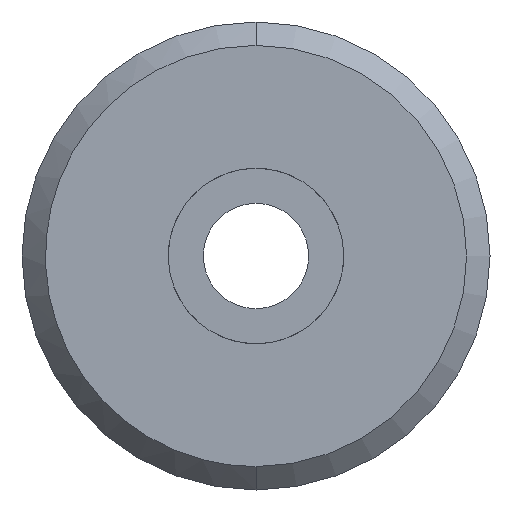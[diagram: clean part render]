
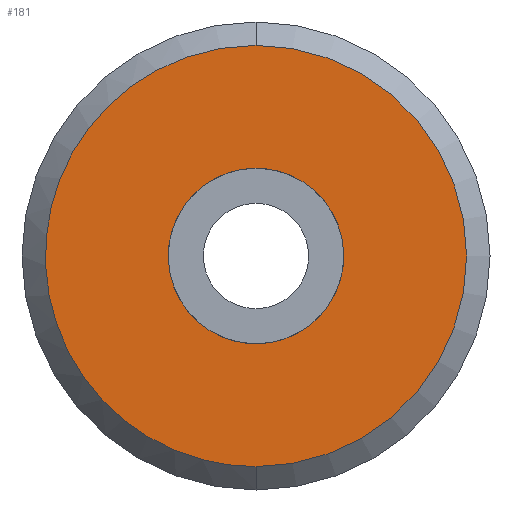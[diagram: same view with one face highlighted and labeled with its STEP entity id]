
A CAD part, front view. The second image highlights one B-rep face of the part: STEP entity #181.
In plain terms, the highlighted planar face has unit normal (0, -1, 0).
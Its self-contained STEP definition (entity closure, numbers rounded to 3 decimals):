
#57=CARTESIAN_POINT('Axis2P3D Location',(0.,0.,0.)) ;
#61=CARTESIAN_POINT('Vertex',(0.,0.,-18.)) ;
#63=CARTESIAN_POINT('Vertex',(0.,0.,18.)) ;
#92=CARTESIAN_POINT('Axis2P3D Location',(0.,0.,0.)) ;
#98=CARTESIAN_POINT('Control Point',(0.,0.,18.)) ;
#99=CARTESIAN_POINT('Control Point',(-1.663,0.,18.)) ;
#100=CARTESIAN_POINT('Control Point',(-3.326,0.,17.808)) ;
#101=CARTESIAN_POINT('Control Point',(-4.959,0.,17.424)) ;
#102=CARTESIAN_POINT('Control Point',(-8.107,0.,16.286)) ;
#103=CARTESIAN_POINT('Control Point',(-10.913,0.,14.46)) ;
#104=CARTESIAN_POINT('Control Point',(-12.204,0.,13.388)) ;
#105=CARTESIAN_POINT('Control Point',(-14.515,0.,10.967)) ;
#106=CARTESIAN_POINT('Control Point',(-16.213,0.,8.082)) ;
#107=CARTESIAN_POINT('Control Point',(-16.891,0.,6.547)) ;
#108=CARTESIAN_POINT('Control Point',(-17.881,0.,3.349)) ;
#109=CARTESIAN_POINT('Control Point',(-18.116,0.,0.01)) ;
#110=CARTESIAN_POINT('Control Point',(-18.039,0.,-1.666)) ;
#111=CARTESIAN_POINT('Control Point',(-17.5,0.,-4.97)) ;
#112=CARTESIAN_POINT('Control Point',(-16.222,0.,-8.064)) ;
#113=CARTESIAN_POINT('Control Point',(-15.406,0.,-9.53)) ;
#114=CARTESIAN_POINT('Control Point',(-13.451,0.,-12.248)) ;
#115=CARTESIAN_POINT('Control Point',(-10.928,0.,-14.448)) ;
#116=CARTESIAN_POINT('Control Point',(-9.545,0.,-15.397)) ;
#117=CARTESIAN_POINT('Control Point',(-6.877,0.,-16.804)) ;
#118=CARTESIAN_POINT('Control Point',(-3.984,0.,-17.63)) ;
#119=CARTESIAN_POINT('Control Point',(-2.666,0.,-17.877)) ;
#120=CARTESIAN_POINT('Control Point',(-1.333,0.,-18.)) ;
#121=CARTESIAN_POINT('Control Point',(0.,0.,-18.)) ;
#128=CARTESIAN_POINT('Control Point',(0.,0.,-7.5)) ;
#129=CARTESIAN_POINT('Control Point',(0.805,0.,-7.5)) ;
#130=CARTESIAN_POINT('Control Point',(1.61,0.,-7.392)) ;
#131=CARTESIAN_POINT('Control Point',(2.396,0.,-7.176)) ;
#132=CARTESIAN_POINT('Control Point',(3.89,0.,-6.538)) ;
#133=CARTESIAN_POINT('Control Point',(5.163,0.,-5.53)) ;
#134=CARTESIAN_POINT('Control Point',(5.728,0.,-4.942)) ;
#135=CARTESIAN_POINT('Control Point',(6.686,0.,-3.631)) ;
#136=CARTESIAN_POINT('Control Point',(7.264,0.,-2.113)) ;
#137=CARTESIAN_POINT('Control Point',(7.449,0.,-1.319)) ;
#138=CARTESIAN_POINT('Control Point',(7.602,0.,0.298)) ;
#139=CARTESIAN_POINT('Control Point',(7.323,0.,1.898)) ;
#140=CARTESIAN_POINT('Control Point',(7.077,0.,2.675)) ;
#141=CARTESIAN_POINT('Control Point',(6.381,0.,4.143)) ;
#142=CARTESIAN_POINT('Control Point',(5.323,0.,5.375)) ;
#143=CARTESIAN_POINT('Control Point',(4.714,0.,5.917)) ;
#144=CARTESIAN_POINT('Control Point',(3.464,0.,6.757)) ;
#145=CARTESIAN_POINT('Control Point',(2.05,0.,7.264)) ;
#146=CARTESIAN_POINT('Control Point',(1.375,0.,7.421)) ;
#147=CARTESIAN_POINT('Control Point',(0.687,0.,7.5)) ;
#148=CARTESIAN_POINT('Control Point',(0.,0.,7.5)) ;
#149=CARTESIAN_POINT('Vertex',(0.,0.,-7.5)) ;
#151=CARTESIAN_POINT('Vertex',(0.,0.,7.5)) ;
#155=CARTESIAN_POINT('Control Point',(0.,0.,7.5)) ;
#156=CARTESIAN_POINT('Control Point',(-0.805,0.,7.5)) ;
#157=CARTESIAN_POINT('Control Point',(-1.61,0.,7.392)) ;
#158=CARTESIAN_POINT('Control Point',(-2.396,0.,7.176)) ;
#159=CARTESIAN_POINT('Control Point',(-3.89,0.,6.538)) ;
#160=CARTESIAN_POINT('Control Point',(-5.163,0.,5.53)) ;
#161=CARTESIAN_POINT('Control Point',(-5.728,0.,4.942)) ;
#162=CARTESIAN_POINT('Control Point',(-6.686,0.,3.631)) ;
#163=CARTESIAN_POINT('Control Point',(-7.264,0.,2.113)) ;
#164=CARTESIAN_POINT('Control Point',(-7.449,0.,1.319)) ;
#165=CARTESIAN_POINT('Control Point',(-7.602,0.,-0.298)) ;
#166=CARTESIAN_POINT('Control Point',(-7.323,0.,-1.898)) ;
#167=CARTESIAN_POINT('Control Point',(-7.077,0.,-2.675)) ;
#168=CARTESIAN_POINT('Control Point',(-6.381,0.,-4.143)) ;
#169=CARTESIAN_POINT('Control Point',(-5.323,0.,-5.375)) ;
#170=CARTESIAN_POINT('Control Point',(-4.714,0.,-5.917)) ;
#171=CARTESIAN_POINT('Control Point',(-3.464,0.,-6.757)) ;
#172=CARTESIAN_POINT('Control Point',(-2.05,0.,-7.264)) ;
#173=CARTESIAN_POINT('Control Point',(-1.375,0.,-7.421)) ;
#174=CARTESIAN_POINT('Control Point',(-0.687,0.,-7.5)) ;
#175=CARTESIAN_POINT('Control Point',(0.,0.,-7.5)) ;
#58=DIRECTION('Axis2P3D Direction',(-0.,1.,0.)) ;
#93=DIRECTION('Axis2P3D Direction',(0.,1.,0.)) ;
#94=DIRECTION('Axis2P3D XDirection',(0.,-0.,1.)) ;
#59=AXIS2_PLACEMENT_3D('Circle Axis2P3D',#57,#58,$) ;
#95=AXIS2_PLACEMENT_3D('Plane Axis2P3D',#92,#93,#94) ;
#124=ORIENTED_EDGE('',*,*,#122,.T.) ;
#125=ORIENTED_EDGE('',*,*,#65,.T.) ;
#178=ORIENTED_EDGE('',*,*,#153,.F.) ;
#179=ORIENTED_EDGE('',*,*,#176,.F.) ;
#180=FACE_BOUND('',#177,.T.) ;
#181=ADVANCED_FACE('Importato1',(#126,#180),#96,.F.) ;
#97=B_SPLINE_CURVE_WITH_KNOTS('',5,(#98,#99,#100,#101,#102,#103,#104,#105,#106,#107,#108,#109,#110,#111,#112,#113,#114,#115,#116,#117,#118,#119,#120,#121),.UNSPECIFIED.,.F.,.U.,(6,3,3,3,3,3,3,6),(0.,11.757,23.515,35.272,47.03,58.787,70.545,79.971),.UNSPECIFIED.) ;
#127=B_SPLINE_CURVE_WITH_KNOTS('',5,(#128,#129,#130,#131,#132,#133,#134,#135,#136,#137,#138,#139,#140,#141,#142,#143,#144,#145,#146,#147,#148),.UNSPECIFIED.,.F.,.U.,(6,3,3,3,3,3,6),(0.,5.692,11.384,17.076,22.768,28.46,33.321),.UNSPECIFIED.) ;
#154=B_SPLINE_CURVE_WITH_KNOTS('',5,(#155,#156,#157,#158,#159,#160,#161,#162,#163,#164,#165,#166,#167,#168,#169,#170,#171,#172,#173,#174,#175),.UNSPECIFIED.,.F.,.U.,(6,3,3,3,3,3,6),(0.,5.692,11.384,17.076,22.768,28.46,33.321),.UNSPECIFIED.) ;
#60=CIRCLE('generated circle',#59,18.) ;
#65=EDGE_CURVE('',#62,#64,#60,.F.) ;
#122=EDGE_CURVE('',#64,#62,#97,.T.) ;
#153=EDGE_CURVE('',#150,#152,#127,.T.) ;
#176=EDGE_CURVE('',#152,#150,#154,.T.) ;
#123=EDGE_LOOP('',(#124,#125)) ;
#177=EDGE_LOOP('',(#178,#179)) ;
#126=FACE_OUTER_BOUND('',#123,.T.) ;
#96=PLANE('Plane',#95) ;
#62=VERTEX_POINT('',#61) ;
#64=VERTEX_POINT('',#63) ;
#150=VERTEX_POINT('',#149) ;
#152=VERTEX_POINT('',#151) ;
